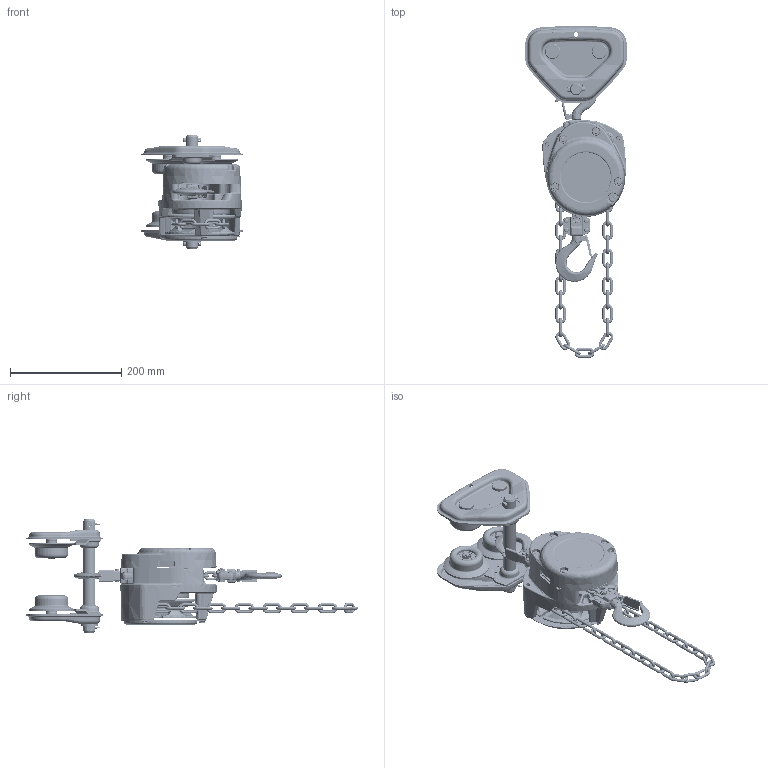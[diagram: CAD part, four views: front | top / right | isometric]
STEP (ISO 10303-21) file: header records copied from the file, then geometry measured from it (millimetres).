
FILE_DESCRIPTION (( 'STEP AP214' ), '1' );
FILE_NAME ('CF005 with PTF005.STEP', '2026-08-18T17:26:27', ( '' ), ( '' ), 'SwSTEP 2.0', 'SolidWorks 2026', '' );
FILE_SCHEMA (( 'AUTOMOTIVE_DESIGN' ));
Length unit declared in the file: millimetre
Products named in the file (43): LCCF005; CF005; C1FA015-91561; L3183008_CASTLENUT_J1NL001-10100; T6PA0059112; 9091280_9091280; HCCF005; PTF2005_4" FLANGE; CF005 with PTF005; CF071005; T6PA0059103; C3BA005-90312; C1FA005-91021; T6PA0059102; T6G5112005; 9009402_AS 1236 PSM - 1.6 x 10; C1FA005-91812; single coil rectangular section spring washer_bsi_Rectangular section spring washer BS 4464 - 16 (Type B); T6G5102005; CF187005; 9091282_9091282; T7G115005; M3041005; C2FA005-91711; C1FA005-90112; 9009423_9009423; T6G156005; C1FA005-91012; 80346; 9098506_9098506; M3021A005; C1FA005-91052; T6G800005P; 6202Z Bearing; C4FA005-91151; HCCF005 FOR CF005; T7G117005; LCCF005 (4 LINKS); M3049005; CF001005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
Assembly tree (107 placements, depth 4):
  CF005 with PTF005
    CF005
      C1FA005-91021
      C1FA005-91012
      C1FA005-91052
      C2FA005-91711
      C4FA005-91151
      9098506_9098506  x5
      80346
      9091282_9091282  x2
      9091280_9091280  x2
      C1FA015-91561
      M3021A005
        C3BA005-90011
        CF071005
        C3BA005-90312  x2
      CF001005
        C1FA005-90112  x2
        C3BA005-90011
        CF071005
      C1FA005-91812
      single coil rectangular section spring washer_bsi_Rectangular section spring washer BS 4464 - 16 (Type B)  x3
      CF187005  x3
      LCCF005 (4 LINKS)
        LCCF005  x4
      M3041005
      HCCF005 FOR CF005
        HCCF005  x36
      M3049005
      9009402_AS 1236 PSM - 1.6 x 10
    PTF2005_4" FLANGE
      T6G5112005  x2
        T6PA0059112
        T6PA0059103
        T6PA0059113
      T7G115005
      T6G5102005  x4
        T6PA0059102
        6202Z Bearing
      9009413_9009413  x4
      T7G117005
      T6G156005  x2
      9009423_9009423  x2
      T6G800005P
      L3183008_CASTLENUT_J1NL001-10100  x4
Bounding box: 182 x 595.9 x 204 mm (x, y, z)
Volume: 1524961.8 mm3; surface area: 733913.8 mm2
Topology: 101 solids, 117 shells, 7573 faces, 19796 edges, 12553 vertices
Faces by surface type: plane 2454, torus 1583, cylinder 1469, bspline 1022, cone 1020, sphere 25
Entity records: 243547 total; most frequent: CARTESIAN_POINT 128488, ORIENTED_EDGE 25042, DIRECTION 21670, EDGE_CURVE 12523, AXIS2_PLACEMENT_3D 8853, VERTEX_POINT 8175, EDGE_LOOP 5100, CIRCLE 4879
